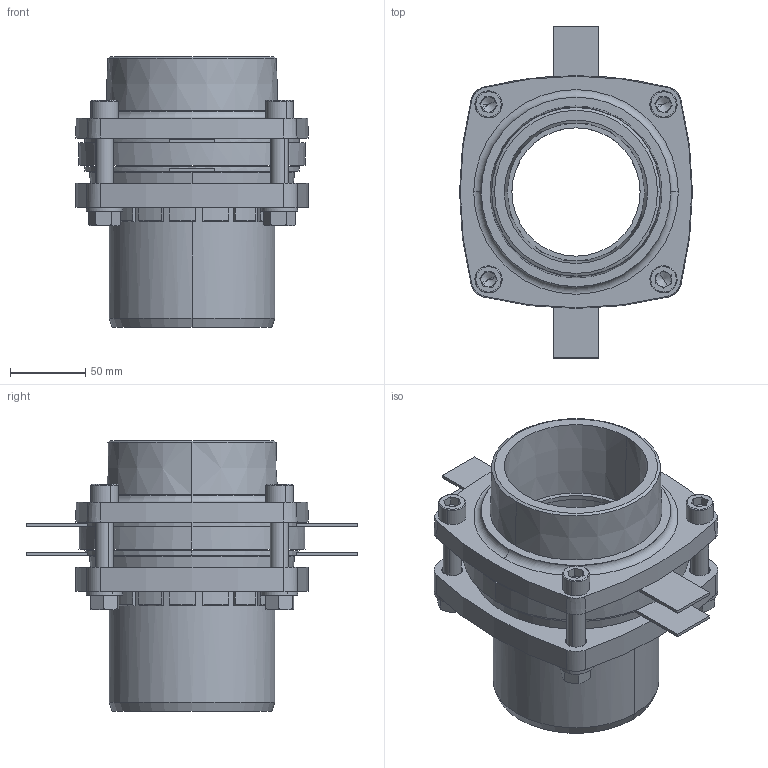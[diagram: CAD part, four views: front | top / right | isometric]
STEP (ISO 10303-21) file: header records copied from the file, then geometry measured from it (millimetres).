
FILE_DESCRIPTION (( 'STEP AP203' ), '1' );
FILE_NAME ('KP_C13-110M.step', '2011-08-08T12:01:52', ( '' ), ( '' ), 'SwSTEP 2.0', 'SolidWorks 2011', '' );
FILE_SCHEMA (( 'CONFIG_CONTROL_DESIGN' ));
Length unit declared in the file: millimetre
Products named in the file (1): KP_C13-110M
Bounding box: 154.3 x 220 x 179.5 mm (x, y, z)
Volume: 1166774.8 mm3; surface area: 251584.4 mm2
Topology: 1 solids, 3 shells, 505 faces, 1215 edges, 745 vertices
Faces by surface type: plane 232, cone 118, cylinder 114, torus 41
Entity records: 14917 total; most frequent: DIRECTION 2742, CARTESIAN_POINT 2730, ORIENTED_EDGE 2414, EDGE_CURVE 1207, AXIS2_PLACEMENT_3D 1077, VERTEX_POINT 745, VECTOR 588, LINE 588
